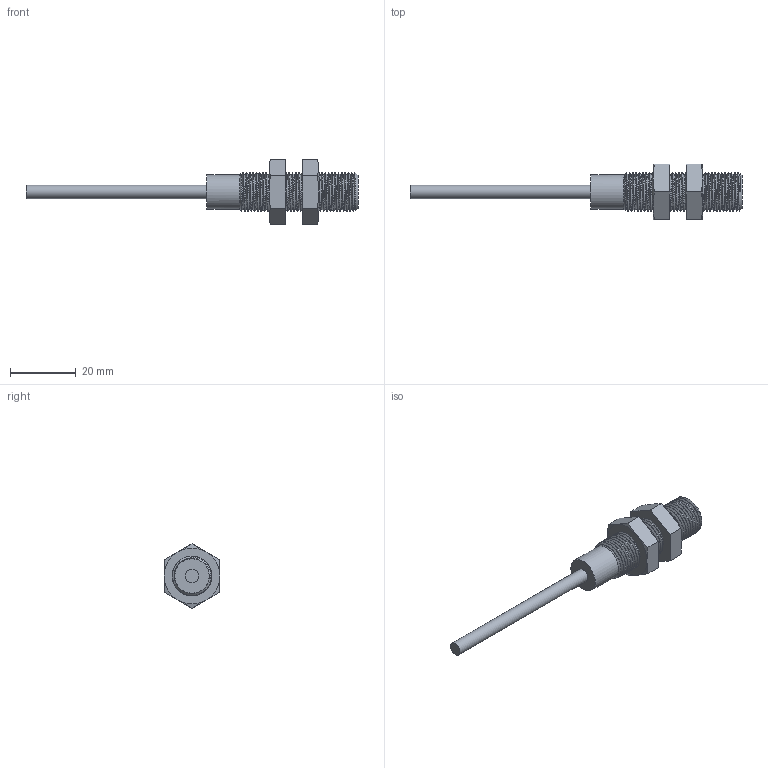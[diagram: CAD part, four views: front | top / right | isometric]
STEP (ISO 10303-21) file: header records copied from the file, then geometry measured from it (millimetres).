
FILE_DESCRIPTION(/* description */ ('Katalogmodell Elobau'),/* implementation_level */ '2;1');
FILE_NAME(/* name */ '122____A.stp',/* time_stamp */ '2014-04-29T10:01:00+02:00',/* author */ ('Elobau GmbH & Co. KG'),/* organization */ ('Elobau GmbH & Co. KG'),/* preprocessor_version */ 'ST-DEVELOPER v15',/* originating_system */ 'SIEMENS PLM Software NX 8.5',/* authorisation */ '');
FILE_SCHEMA (('AUTOMOTIVE_DESIGN { 1 0 10303 214 3 1 1 1 }'));
Length unit declared in the file: millimetre
Products named in the file (1): 122..._A
Bounding box: 101 x 17 x 19.63 mm (x, y, z)
Volume: 6708.8 mm3; surface area: 3952.4 mm2
Topology: 1 solids, 1 shells, 50 faces, 114 edges, 71 vertices
Faces by surface type: plane 21, cone 15, cylinder 8, bspline 6
Full cylindrical faces by diameter (mm): 4.1 x1, 10.5 x1
Entity records: 14000 total; most frequent: CARTESIAN_POINT 12997, ORIENTED_EDGE 214, DIRECTION 168, EDGE_CURVE 107, AXIS2_PLACEMENT_3D 72, VERTEX_POINT 69, EDGE_LOOP 58, B_SPLINE_CURVE_WITH_KNOTS 55
